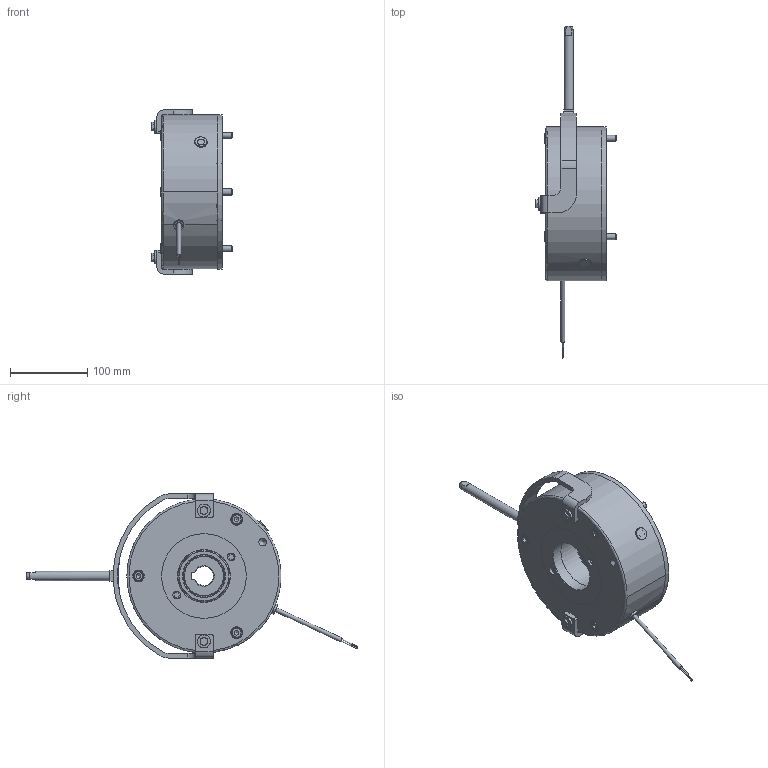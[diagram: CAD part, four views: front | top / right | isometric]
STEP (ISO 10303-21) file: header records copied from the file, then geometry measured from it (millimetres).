
FILE_DESCRIPTION(/* description */ (''),/* implementation_level */ '2;1');
FILE_NAME(/* name */ 'C:\SapWorkDir\Inventor\IP1\ConvertTempPath\5028812_IPT_000.ipt.stp',/* time_stamp */ '2020-09-18T13:29:54+02:00',/* author */ ('STRATE'),/* organization */ (''),/* preprocessor_version */ 'ST-DEVELOPER v17',/* originating_system */ 'Autodesk Inventor 2018',/* authorisation */ '');
FILE_SCHEMA (('AUTOMOTIVE_DESIGN { 1 0 10303 214 3 1 1 }'));
Length unit declared in the file: millimetre
Products named in the file (1): 5028812
Bounding box: 105 x 430.97 x 213 mm (x, y, z)
Volume: 1846704 mm3; surface area: 294520.8 mm2
Topology: 4 solids, 4 shells, 583 faces, 1588 edges, 1069 vertices
Faces by surface type: cylinder 298, plane 159, cone 99, torus 27
Full cylindrical faces by diameter (mm): 0.01 x1, 1 x2, 1.85 x2, 5 x1, 5.3 x1, 6 x2, 6.4 x2, 7 x1, 7.2 x2, 7.3 x2, 8 x4, 8.2 x3, 8.5 x1, 8.6 x3, 8.9 x2, 9 x3, 9.8 x2, 10 x1, 10.106 x2, 12 x1, 13 x3, 13.2 x1, 13.9 x3, 15 x3, 16 x1, 17 x2, 68 x1, 70 x1, 75 x1, 103.8 x2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
Entity records: 20359 total; most frequent: CARTESIAN_POINT 4609, DIRECTION 3244, ORIENTED_EDGE 3176, EDGE_CURVE 1588, AXIS2_PLACEMENT_3D 1353, VERTEX_POINT 1069, CIRCLE 769, EDGE_LOOP 667
